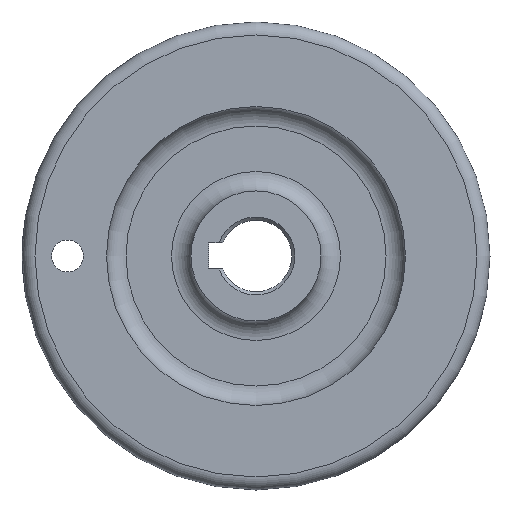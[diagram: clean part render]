
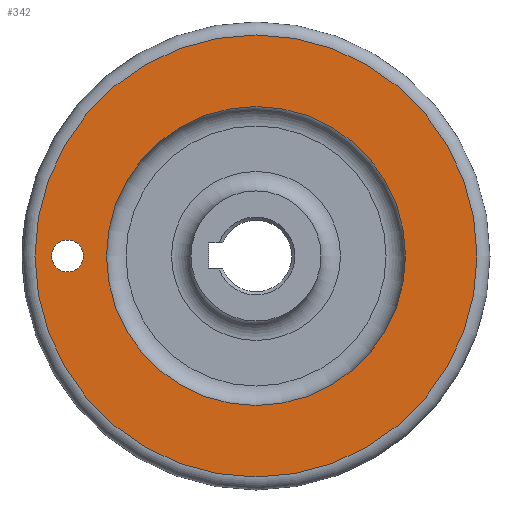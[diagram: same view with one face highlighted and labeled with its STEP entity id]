
A CAD part, left-side view. The second image highlights one B-rep face of the part: STEP entity #342.
In plain terms, the highlighted planar face has unit normal (-1, 0, 0).
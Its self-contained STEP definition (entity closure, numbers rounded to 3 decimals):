
#25=FACE_BOUND('',#73,.T.);
#26=FACE_BOUND('',#74,.T.);
#35=PLANE('',#398);
#49=FACE_OUTER_BOUND('',#72,.T.);
#72=EDGE_LOOP('',(#276));
#73=EDGE_LOOP('',(#277));
#74=EDGE_LOOP('',(#278));
#129=CIRCLE('',#394,34.);
#132=CIRCLE('',#399,23.);
#133=CIRCLE('',#400,2.459);
#164=VERTEX_POINT('',#594);
#167=VERTEX_POINT('',#604);
#168=VERTEX_POINT('',#606);
#203=EDGE_CURVE('',#164,#164,#129,.T.);
#207=EDGE_CURVE('',#167,#167,#132,.T.);
#208=EDGE_CURVE('',#168,#168,#133,.T.);
#276=ORIENTED_EDGE('',*,*,#203,.F.);
#277=ORIENTED_EDGE('',*,*,#207,.T.);
#278=ORIENTED_EDGE('',*,*,#208,.T.);
#342=ADVANCED_FACE('',(#49,#25,#26),#35,.T.);
#394=AXIS2_PLACEMENT_3D('',#596,#475,#476);
#398=AXIS2_PLACEMENT_3D('',#603,#484,#485);
#399=AXIS2_PLACEMENT_3D('',#605,#486,#487);
#400=AXIS2_PLACEMENT_3D('',#607,#488,#489);
#475=DIRECTION('center_axis',(1.,0.,0.));
#476=DIRECTION('ref_axis',(0.,-1.,0.));
#484=DIRECTION('center_axis',(-1.,0.,0.));
#485=DIRECTION('ref_axis',(0.,0.,1.));
#486=DIRECTION('center_axis',(1.,0.,0.));
#487=DIRECTION('ref_axis',(0.,1.,0.));
#488=DIRECTION('center_axis',(1.,0.,0.));
#489=DIRECTION('ref_axis',(0.,1.,0.));
#594=CARTESIAN_POINT('',(0.,0.,34.));
#596=CARTESIAN_POINT('Origin',(0.,0.,0.));
#603=CARTESIAN_POINT('Origin',(0.,29.5,0.));
#604=CARTESIAN_POINT('',(0.,-23.,0.));
#605=CARTESIAN_POINT('Origin',(0.,0.,0.));
#606=CARTESIAN_POINT('',(0.,26.542,0.));
#607=CARTESIAN_POINT('Origin',(0.,29.,0.));
